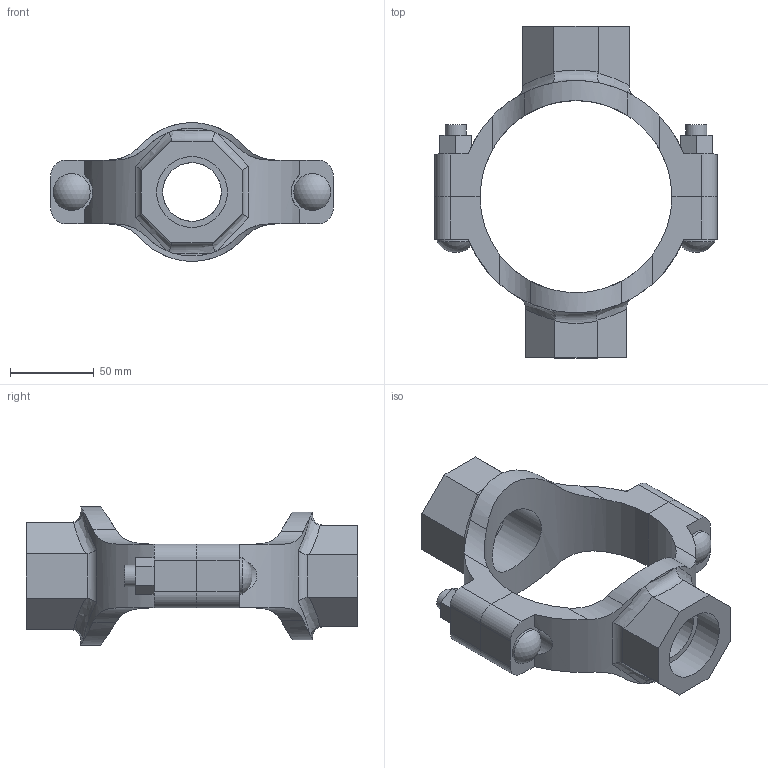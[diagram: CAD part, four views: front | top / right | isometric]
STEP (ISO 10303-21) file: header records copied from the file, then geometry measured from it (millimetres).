
FILE_DESCRIPTION(/* description */ ('VIC MECH-T BRANCH OUTLET CROSS STYLE 920N (THD)','CAx-IF Rec.Pracs.---Representation and Presentation of Product Manufacturing Information (PMI)---4.0---2014-10-13'),/* implementation_level */ '2;1');
FILE_NAME(/* name */ 'C:\Users\Vjadhav\AppData\Roaming\Autodesk\ApplicationPlugins\Back Up\Victaulic_IPS_Mechanical-Cross Outlet_Style 920N (FPT)\Victaulic_IPS_Mechanical-Cross Outlet_04.0x01.5x01.25 (100x40x32).stp',/* time_stamp */ '2020-08-06T18:58:34+05:00',/* author */ ('Vjadhav'),/* organization */ ('Victaulic'),/* preprocessor_version */ 'ST-DEVELOPER v17.2',/* originating_system */ 'Autodesk Inventor 2019',/* authorisation */ '');
FILE_SCHEMA (('AP242_MANAGED_MODEL_BASED_3D_ENGINEERING_MIM_LF { 1 0 10303 442 1 1 4 }'));
Length unit declared in the file: inch
Products named in the file (3): 920NT-04.0x01.5x01.25; 920NT-04.0x01.5; 920NT-04.0x01.25
Assembly tree (2 placements, depth 2):
  920NT-04.0x01.5x01.25
    920NT-04.0x01.5
    920NT-04.0x01.25
Bounding box: 168.4 x 197.61 x 82.38 mm (x, y, z)
Volume: 383099.3 mm3; surface area: 90640 mm2
Topology: 2 solids, 2 shells, 135 faces, 362 edges, 244 vertices
Faces by surface type: plane 68, cylinder 53, bspline 8, torus 4, sphere 2
Full cylindrical faces by diameter (mm): 12.7 x4, 21.982 x2, 34.925 x1, 41.275 x1, 42.164 x1, 48.26 x1
Entity records: 5415 total; most frequent: CARTESIAN_POINT 1824, ORIENTED_EDGE 724, DIRECTION 654, EDGE_CURVE 362, VERTEX_POINT 244, AXIS2_PLACEMENT_3D 234, LINE 186, VECTOR 186
